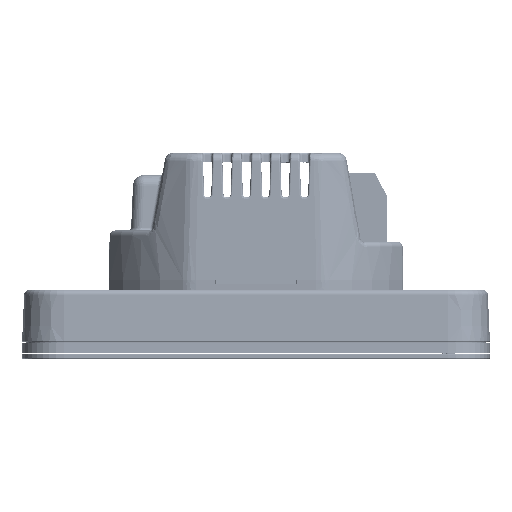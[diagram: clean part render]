
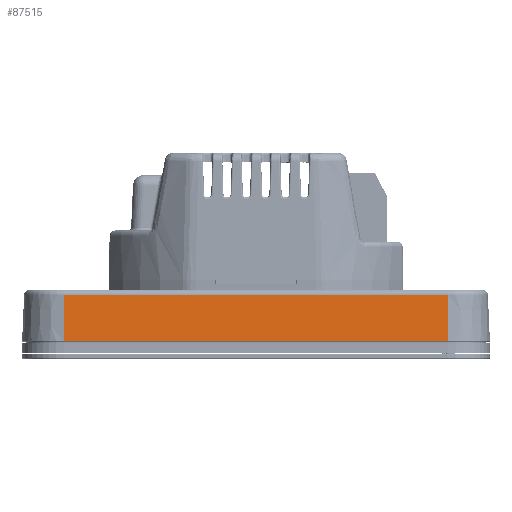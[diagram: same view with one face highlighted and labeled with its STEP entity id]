
A CAD part, left-side view. The second image highlights one B-rep face of the part: STEP entity #87515.
In plain terms, the highlighted planar face has unit normal (-0.999, 0, 0.044) as drawn and (0.999, 0, 0.044) by its records, which use the part's own axes.
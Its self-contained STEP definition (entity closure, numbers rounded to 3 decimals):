
#15257=FACE_OUTER_BOUND('',#22043,.T.);
#22043=EDGE_LOOP('',(#77363,#77364,#77365,#77366));
#28603=LINE('',#161973,#35325);
#28638=LINE('',#162099,#35360);
#28639=LINE('',#162103,#35361);
#28640=LINE('',#162104,#35362);
#35325=VECTOR('',#115641,69.5);
#35360=VECTOR('',#115752,8.347);
#35361=VECTOR('',#115757,8.347);
#35362=VECTOR('',#115758,69.5);
#43936=VERTEX_POINT('',#161966);
#43939=VERTEX_POINT('',#161971);
#43992=VERTEX_POINT('',#162098);
#43993=VERTEX_POINT('',#162102);
#55243=EDGE_CURVE('',#43939,#43936,#28603,.T.);
#55306=EDGE_CURVE('',#43936,#43992,#28638,.T.);
#55308=EDGE_CURVE('',#43993,#43939,#28639,.T.);
#55309=EDGE_CURVE('',#43992,#43993,#28640,.T.);
#77363=ORIENTED_EDGE('',*,*,#55243,.F.);
#77364=ORIENTED_EDGE('',*,*,#55308,.F.);
#77365=ORIENTED_EDGE('',*,*,#55309,.F.);
#77366=ORIENTED_EDGE('',*,*,#55306,.F.);
#83095=PLANE('',#95261);
#87515=ADVANCED_FACE('',(#15257),#83095,.T.);
#95261=AXIS2_PLACEMENT_3D('',#162101,#115755,#115756);
#115641=DIRECTION('',(0.,-1.,0.));
#115752=DIRECTION('',(-0.044,0.,0.999));
#115755=DIRECTION('center_axis',(0.999,0.,0.044));
#115756=DIRECTION('ref_axis',(0.,1.,0.));
#115757=DIRECTION('',(0.044,0.,-0.999));
#115758=DIRECTION('',(0.,1.,0.));
#161966=CARTESIAN_POINT('',(41.982,-34.75,-6.796));
#161971=CARTESIAN_POINT('',(41.982,34.75,-6.796));
#161973=CARTESIAN_POINT('',(41.982,34.75,-6.796));
#162098=CARTESIAN_POINT('',(41.618,-34.75,1.544));
#162099=CARTESIAN_POINT('',(41.982,-34.75,-6.796));
#162101=CARTESIAN_POINT('Origin',(41.621,-42.25,1.492));
#162102=CARTESIAN_POINT('',(41.618,34.75,1.544));
#162103=CARTESIAN_POINT('',(41.618,34.75,1.544));
#162104=CARTESIAN_POINT('',(41.618,-34.75,1.544));
